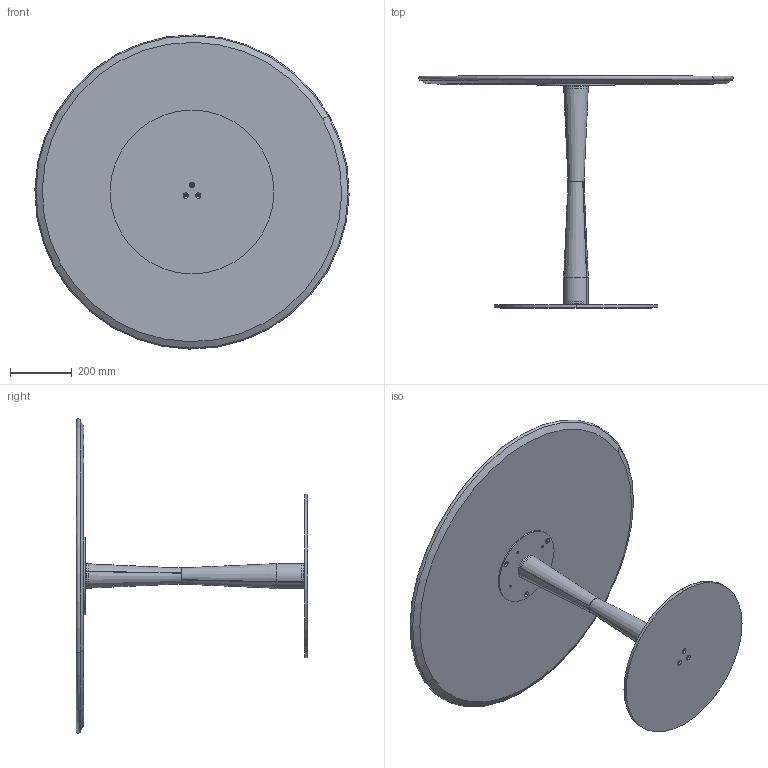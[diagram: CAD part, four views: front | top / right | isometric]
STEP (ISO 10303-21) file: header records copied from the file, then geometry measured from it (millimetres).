
FILE_DESCRIPTION (( 'STEP AP203' ), '1' );
FILE_NAME ('FI30B.STEP', '2024-08-08T08:02:24', ( '' ), ( '' ), 'SwSTEP 2.0', 'SolidWorks 2022', '' );
FILE_SCHEMA (( 'CONFIG_CONTROL_DESIGN' ));
Length unit declared in the file: millimetre
Products named in the file (10): CBS000000BAS-00-BISTRO PIASTRA INFERIORE_D.530; Assieme piani incassatti ceramica_Ø100cm; FIL000000_02-00-Tubo Conificato inferiore_tagliato; BOMB0001-00-PIANO LEGNO CON INCASSO Ø100_MDF per Ø100cm; FIL000000_03-00-Piastra per Tubi conificati FILU; FIL000000COL-01-FILU'' COLONNA CENTRALE; CBS200000PST-00-CONTROPIASTRA PER PIASTRA D.25cm GREZZO_250; FIL000000_01-00-Tubo Conificato superiore_tagliato; K1XCMXX-00-Piani Rotondi in ceramica_D.1000 SOLO CERAMICA SP.6mm; FI30B
Assembly tree (10 placements, depth 3):
  FI30B
    CBS000000BAS-00-BISTRO PIASTRA INFERIORE_D.530
    CBS200000PST-00-CONTROPIASTRA PER PIASTRA D.25cm GREZZO_250
    FIL000000COL-01-FILU'' COLONNA CENTRALE
      FIL000000_02-00-Tubo Conificato inferiore_tagliato
      FIL000000_01-00-Tubo Conificato superiore_tagliato
      FIL000000_03-00-Piastra per Tubi conificati FILU  x2
    Assieme piani incassatti ceramica_Ø100cm
      BOMB0001-00-PIANO LEGNO CON INCASSO Ø100_MDF per Ø100cm
      K1XCMXX-00-Piani Rotondi in ceramica_D.1000 SOLO CERAMICA SP.6mm
Bounding box: 1016.91 x 750 x 1016.91 mm (x, y, z)
Volume: 22504568.7 mm3; surface area: 4144924.7 mm2
Topology: 8 solids, 8 shells, 117 faces, 268 edges, 168 vertices
Faces by surface type: cylinder 62, cone 36, plane 17, torus 2
Entity records: 4252 total; most frequent: DIRECTION 642, CARTESIAN_POINT 518, ORIENTED_EDGE 488, AXIS2_PLACEMENT_3D 276, EDGE_CURVE 244, CIRCLE 154, EDGE_LOOP 152, VERTEX_POINT 152
